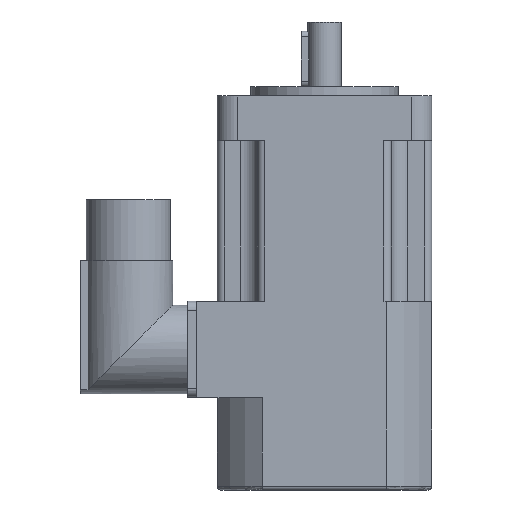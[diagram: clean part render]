
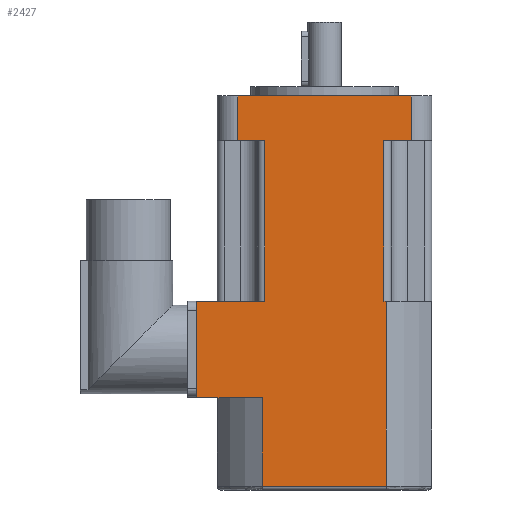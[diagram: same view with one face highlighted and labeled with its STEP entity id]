
A CAD part, left-side view. The second image highlights one B-rep face of the part: STEP entity #2427.
In plain terms, the highlighted planar face has unit normal (-1, 0, 0).
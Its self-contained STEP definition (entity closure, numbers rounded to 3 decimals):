
#324=FACE_OUTER_BOUND('',#470,.T.);
#470=EDGE_LOOP('',(#2034,#2035,#2036,#2037,#2038,#2039,#2040,#2041,#2042,
#2043,#2044,#2045,#2046,#2047));
#583=LINE('',#3735,#804);
#606=LINE('',#3803,#827);
#622=LINE('',#3852,#843);
#623=LINE('',#3855,#844);
#626=LINE('',#3861,#847);
#649=LINE('',#3921,#870);
#650=LINE('',#3926,#871);
#672=LINE('',#3975,#893);
#675=LINE('',#3984,#896);
#683=LINE('',#4120,#904);
#685=LINE('',#4142,#906);
#687=LINE('',#4147,#908);
#688=LINE('',#4149,#909);
#689=LINE('',#4150,#910);
#804=VECTOR('',#2959,7.425);
#827=VECTOR('',#3022,7.425);
#843=VECTOR('',#3078,12.);
#844=VECTOR('',#3081,12.);
#847=VECTOR('',#3088,47.);
#870=VECTOR('',#3153,43.5);
#871=VECTOR('',#3158,43.5);
#893=VECTOR('',#3202,18.425);
#896=VECTOR('',#3211,0.696);
#904=VECTOR('',#3247,33.541);
#906=VECTOR('',#3257,24.);
#908=VECTOR('',#3263,50.);
#909=VECTOR('',#3264,26.);
#910=VECTOR('',#3265,17.729);
#1045=VERTEX_POINT('',#3732);
#1046=VERTEX_POINT('',#3734);
#1070=VERTEX_POINT('',#3800);
#1071=VERTEX_POINT('',#3802);
#1084=VERTEX_POINT('',#3850);
#1085=VERTEX_POINT('',#3854);
#1102=VERTEX_POINT('',#3919);
#1103=VERTEX_POINT('',#3923);
#1120=VERTEX_POINT('',#3973);
#1123=VERTEX_POINT('',#3983);
#1137=VERTEX_POINT('',#4100);
#1139=VERTEX_POINT('',#4119);
#1141=VERTEX_POINT('',#4141);
#1143=VERTEX_POINT('',#4148);
#1309=EDGE_CURVE('',#1046,#1045,#583,.T.);
#1343=EDGE_CURVE('',#1071,#1070,#606,.T.);
#1368=EDGE_CURVE('',#1045,#1084,#622,.T.);
#1369=EDGE_CURVE('',#1071,#1085,#623,.T.);
#1373=EDGE_CURVE('',#1085,#1084,#626,.T.);
#1404=EDGE_CURVE('',#1102,#1046,#649,.T.);
#1406=EDGE_CURVE('',#1103,#1070,#650,.T.);
#1431=EDGE_CURVE('',#1120,#1103,#672,.T.);
#1435=EDGE_CURVE('',#1102,#1123,#675,.T.);
#1457=EDGE_CURVE('',#1139,#1137,#683,.T.);
#1462=EDGE_CURVE('',#1141,#1137,#685,.T.);
#1465=EDGE_CURVE('',#1139,#1123,#687,.T.);
#1466=EDGE_CURVE('',#1120,#1143,#688,.T.);
#1467=EDGE_CURVE('',#1141,#1143,#689,.T.);
#2034=ORIENTED_EDGE('',*,*,#1457,.F.);
#2035=ORIENTED_EDGE('',*,*,#1465,.T.);
#2036=ORIENTED_EDGE('',*,*,#1435,.F.);
#2037=ORIENTED_EDGE('',*,*,#1404,.T.);
#2038=ORIENTED_EDGE('',*,*,#1309,.T.);
#2039=ORIENTED_EDGE('',*,*,#1368,.T.);
#2040=ORIENTED_EDGE('',*,*,#1373,.F.);
#2041=ORIENTED_EDGE('',*,*,#1369,.F.);
#2042=ORIENTED_EDGE('',*,*,#1343,.T.);
#2043=ORIENTED_EDGE('',*,*,#1406,.F.);
#2044=ORIENTED_EDGE('',*,*,#1431,.F.);
#2045=ORIENTED_EDGE('',*,*,#1466,.T.);
#2046=ORIENTED_EDGE('',*,*,#1467,.F.);
#2047=ORIENTED_EDGE('',*,*,#1462,.T.);
#2310=PLANE('',#2653);
#2427=ADVANCED_FACE('',(#324),#2310,.T.);
#2653=AXIS2_PLACEMENT_3D('',#4146,#3261,#3262);
#2959=DIRECTION('',(0.,-1.,0.));
#3022=DIRECTION('',(0.,-1.,0.));
#3078=DIRECTION('',(0.,0.,1.));
#3081=DIRECTION('',(0.,0.,1.));
#3088=DIRECTION('',(0.,-1.,0.));
#3153=DIRECTION('',(0.,0.,1.));
#3158=DIRECTION('',(0.,0.,1.));
#3202=DIRECTION('',(0.,-1.,0.));
#3211=DIRECTION('',(0.,-1.,0.));
#3247=DIRECTION('',(0.,1.,0.));
#3257=DIRECTION('',(0.,0.,-1.));
#3261=DIRECTION('center_axis',(-1.,0.,0.));
#3262=DIRECTION('ref_axis',(0.,-1.,0.));
#3263=DIRECTION('',(0.,0.,1.));
#3264=DIRECTION('',(0.,0.,-1.));
#3265=DIRECTION('',(0.,1.,0.));
#3732=CARTESIAN_POINT('',(-29.,-23.5,56.5));
#3734=CARTESIAN_POINT('',(-29.,-16.075,56.5));
#3735=CARTESIAN_POINT('',(-29.,23.5,56.5));
#3800=CARTESIAN_POINT('',(-29.,16.075,56.5));
#3802=CARTESIAN_POINT('',(-29.,23.5,56.5));
#3803=CARTESIAN_POINT('',(-29.,23.5,56.5));
#3850=CARTESIAN_POINT('',(-29.,-23.5,68.5));
#3852=CARTESIAN_POINT('',(-29.,-23.5,56.5));
#3854=CARTESIAN_POINT('',(-29.,23.5,68.5));
#3855=CARTESIAN_POINT('',(-29.,23.5,56.5));
#3861=CARTESIAN_POINT('',(-29.,23.5,68.5));
#3919=CARTESIAN_POINT('',(-29.,-16.075,13.));
#3921=CARTESIAN_POINT('',(-29.,-16.075,13.));
#3923=CARTESIAN_POINT('',(-29.,16.075,13.));
#3926=CARTESIAN_POINT('',(-29.,16.075,13.));
#3973=CARTESIAN_POINT('',(-29.,34.5,13.));
#3975=CARTESIAN_POINT('',(-29.,34.5,13.));
#3983=CARTESIAN_POINT('',(-29.,-16.771,13.));
#3984=CARTESIAN_POINT('',(-29.,34.5,13.));
#4100=CARTESIAN_POINT('',(-29.,16.771,-37.));
#4119=CARTESIAN_POINT('',(-29.,-16.771,-37.));
#4120=CARTESIAN_POINT('',(-29.,17.25,-37.));
#4141=CARTESIAN_POINT('',(-29.,16.771,-13.));
#4142=CARTESIAN_POINT('',(-29.,16.771,-13.));
#4146=CARTESIAN_POINT('Origin',(-29.,34.5,0.));
#4147=CARTESIAN_POINT('',(-29.,-16.771,0.));
#4148=CARTESIAN_POINT('',(-29.,34.5,-13.));
#4149=CARTESIAN_POINT('',(-29.,34.5,0.));
#4150=CARTESIAN_POINT('',(-29.,34.5,-13.));
